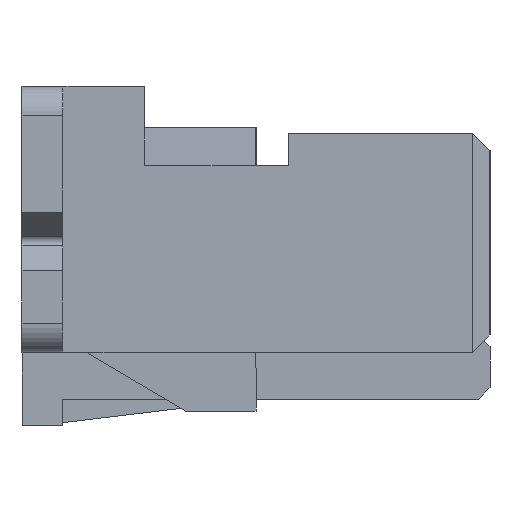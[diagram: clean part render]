
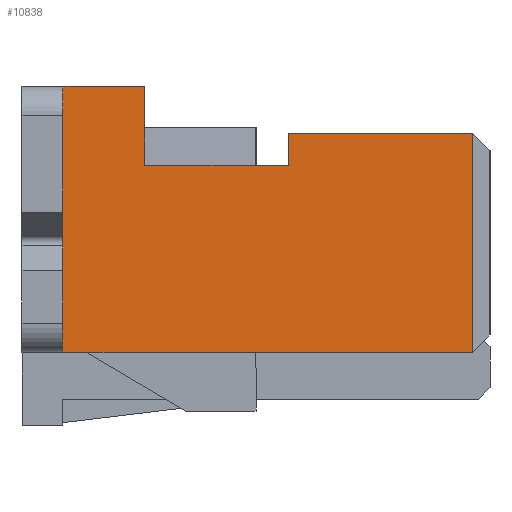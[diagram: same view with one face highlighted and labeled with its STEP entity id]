
A CAD part, left-side view. The second image highlights one B-rep face of the part: STEP entity #10838.
In plain terms, the highlighted planar face has unit normal (-1, 0, 0).
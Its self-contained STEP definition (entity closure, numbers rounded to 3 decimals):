
#233=FACE_OUTER_BOUND('',#790,.T.);
#790=EDGE_LOOP('',(#7784,#7785,#7786,#7787,#7788,#7789,#7790,#7791));
#1712=LINE('',#15508,#3285);
#1713=LINE('',#15510,#3286);
#1714=LINE('',#15512,#3287);
#1715=LINE('',#15514,#3288);
#1716=LINE('',#15516,#3289);
#1717=LINE('',#15518,#3290);
#1718=LINE('',#15520,#3291);
#1719=LINE('',#15521,#3292);
#3285=VECTOR('',#12636,1000.);
#3286=VECTOR('',#12637,1000.);
#3287=VECTOR('',#12638,10.);
#3288=VECTOR('',#12639,1000.);
#3289=VECTOR('',#12640,1000.);
#3290=VECTOR('',#12641,1000.);
#3291=VECTOR('',#12642,1000.);
#3292=VECTOR('',#12643,1000.);
#4703=VERTEX_POINT('',#15506);
#4704=VERTEX_POINT('',#15507);
#4705=VERTEX_POINT('',#15509);
#4706=VERTEX_POINT('',#15511);
#4707=VERTEX_POINT('',#15513);
#4708=VERTEX_POINT('',#15515);
#4709=VERTEX_POINT('',#15517);
#4710=VERTEX_POINT('',#15519);
#5878=EDGE_CURVE('',#4703,#4704,#1712,.T.);
#5879=EDGE_CURVE('',#4704,#4705,#1713,.T.);
#5880=EDGE_CURVE('',#4705,#4706,#1714,.F.);
#5881=EDGE_CURVE('',#4707,#4706,#1715,.T.);
#5882=EDGE_CURVE('',#4708,#4707,#1716,.T.);
#5883=EDGE_CURVE('',#4709,#4708,#1717,.T.);
#5884=EDGE_CURVE('',#4710,#4709,#1718,.T.);
#5885=EDGE_CURVE('',#4703,#4710,#1719,.T.);
#7784=ORIENTED_EDGE('',*,*,#5878,.T.);
#7785=ORIENTED_EDGE('',*,*,#5879,.T.);
#7786=ORIENTED_EDGE('',*,*,#5880,.T.);
#7787=ORIENTED_EDGE('',*,*,#5881,.F.);
#7788=ORIENTED_EDGE('',*,*,#5882,.F.);
#7789=ORIENTED_EDGE('',*,*,#5883,.F.);
#7790=ORIENTED_EDGE('',*,*,#5884,.F.);
#7791=ORIENTED_EDGE('',*,*,#5885,.F.);
#10289=PLANE('',#11414);
#10838=ADVANCED_FACE('',(#233),#10289,.T.);
#11414=AXIS2_PLACEMENT_3D('',#15505,#12634,#12635);
#12634=DIRECTION('center_axis',(-1.,0.,0.));
#12635=DIRECTION('ref_axis',(0.,0.,1.));
#12636=DIRECTION('',(0.,0.,-1.));
#12637=DIRECTION('',(0.,-1.,0.));
#12638=DIRECTION('',(0.,0.,-1.));
#12639=DIRECTION('',(0.,-1.,0.));
#12640=DIRECTION('',(0.,0.,1.));
#12641=DIRECTION('',(0.,-1.,0.));
#12642=DIRECTION('',(0.,0.,-1.));
#12643=DIRECTION('',(0.,-1.,0.));
#15505=CARTESIAN_POINT('Origin',(-8.2,3.3,-2.275));
#15506=CARTESIAN_POINT('',(-8.2,3.3,2.275));
#15507=CARTESIAN_POINT('',(-8.2,3.3,-2.275));
#15508=CARTESIAN_POINT('',(-8.2,3.3,-2.275));
#15509=CARTESIAN_POINT('',(-8.2,-3.7,-2.275));
#15510=CARTESIAN_POINT('',(-8.2,3.3,-2.275));
#15511=CARTESIAN_POINT('',(-8.2,-3.7,1.475));
#15512=CARTESIAN_POINT('',(-8.2,-3.7,-1.138));
#15513=CARTESIAN_POINT('',(-8.2,-0.55,1.475));
#15514=CARTESIAN_POINT('',(-8.2,-0.55,1.475));
#15515=CARTESIAN_POINT('',(-8.2,-0.55,0.925));
#15516=CARTESIAN_POINT('',(-8.2,-0.55,0.925));
#15517=CARTESIAN_POINT('',(-8.2,1.9,0.925));
#15518=CARTESIAN_POINT('',(-8.2,1.9,0.925));
#15519=CARTESIAN_POINT('',(-8.2,1.9,2.275));
#15520=CARTESIAN_POINT('',(-8.2,1.9,2.275));
#15521=CARTESIAN_POINT('',(-8.2,3.3,2.275));
